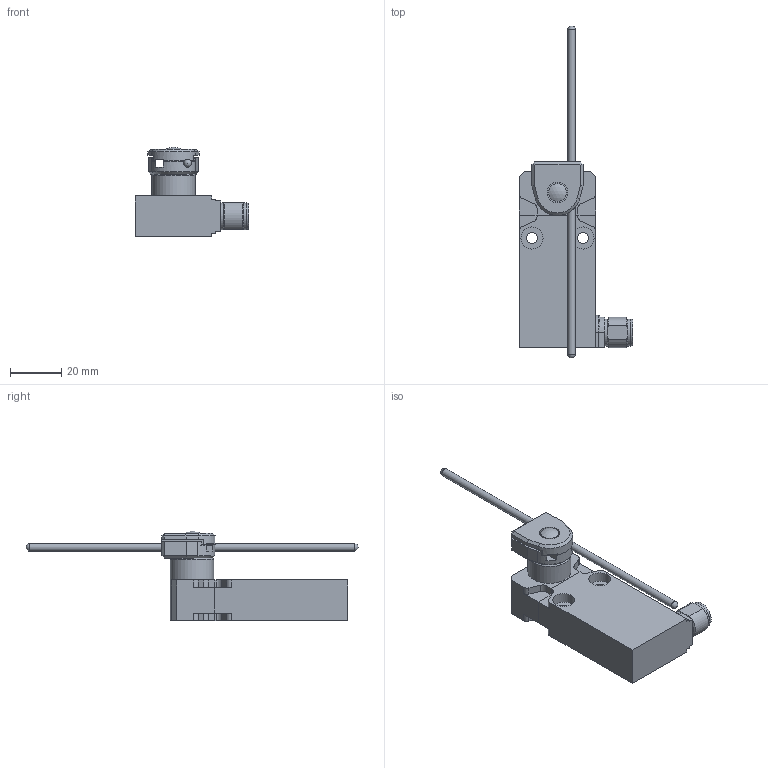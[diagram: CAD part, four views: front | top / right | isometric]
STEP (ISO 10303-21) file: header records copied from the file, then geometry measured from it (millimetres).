
FILE_DESCRIPTION(/* description */ (''),/* implementation_level */ '2;1');
FILE_NAME(/* name */ 'C:\Users\servizio.tecnico\Desktop\CADENAS\3D\EP1_STP\STP_EP1_G72M.stp',/* time_stamp */ '2017-09-04T11:53:25+02:00',/* author */ ('servizio.tecnico'),/* organization */ (''),/* preprocessor_version */ 'ST-DEVELOPER v16.1',/* originating_system */ 'Autodesk Inventor 2016',/* authorisation */ '');
FILE_SCHEMA (('AUTOMOTIVE_DESIGN { 1 0 10303 214 3 1 1 }'));
Length unit declared in the file: millimetre
Products named in the file (3): Product; EP1G72-M; BASE ASSI 
Assembly tree (2 placements, depth 3):
  BASE ASSI 
    EP1G72-M
      Product
Bounding box: 44.5 x 130 x 35.03 mm (x, y, z)
Volume: 37848.6 mm3; surface area: 13570.2 mm2
Topology: 4 solids, 4 shells, 184 faces, 474 edges, 308 vertices
Faces by surface type: plane 125, cylinder 48, cone 6, sphere 3, torus 2
Full cylindrical faces by diameter (mm): 3 x1, 4.4 x2, 7 x1, 8 x1, 8.7 x4, 10.3 x1, 10.6 x2, 11 x1, 17 x1
Entity records: 5595 total; most frequent: CARTESIAN_POINT 988, DIRECTION 930, ORIENTED_EDGE 902, EDGE_CURVE 451, LINE 330, VECTOR 330, VERTEX_POINT 302, AXIS2_PLACEMENT_3D 300
